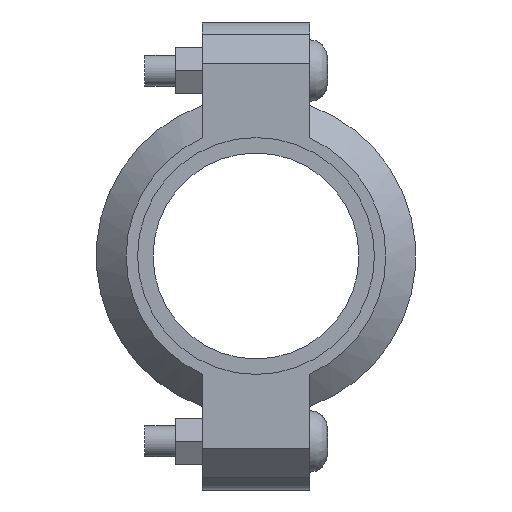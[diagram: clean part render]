
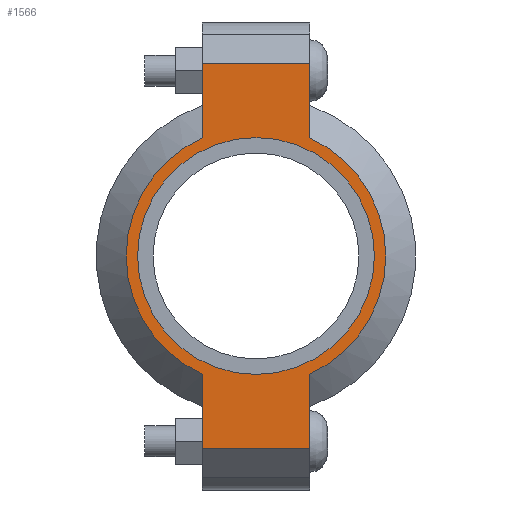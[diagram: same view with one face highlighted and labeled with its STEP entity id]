
A CAD part, left-side view. The second image highlights one B-rep face of the part: STEP entity #1566.
In plain terms, the highlighted planar face has unit normal (-1, 0, 0) as drawn and (0, 0, 1) by its records, which use the part's own axes.
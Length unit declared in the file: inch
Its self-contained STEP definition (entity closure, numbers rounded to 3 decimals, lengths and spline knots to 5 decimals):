
#190=LINE('',#2724,#283);
#198=LINE('',#2760,#291);
#205=LINE('',#2781,#298);
#214=LINE('',#2813,#307);
#215=LINE('',#2817,#308);
#216=LINE('',#2819,#309);
#283=VECTOR('',#2216,0.3937);
#291=VECTOR('',#2232,0.3937);
#298=VECTOR('',#2251,0.3937);
#307=VECTOR('',#2276,0.3937);
#308=VECTOR('',#2281,0.3937);
#309=VECTOR('',#2282,0.3937);
#365=FACE_BOUND('',#543,.T.);
#437=FACE_OUTER_BOUND('',#542,.T.);
#542=EDGE_LOOP('',(#1307,#1308,#1309,#1310,#1311,#1312,#1313,#1314));
#543=EDGE_LOOP('',(#1315));
#615=CIRCLE('',#1776,1.4375);
#641=CIRCLE('',#1835,1.575);
#642=CIRCLE('',#1836,1.575);
#707=VERTEX_POINT('',#2540);
#750=VERTEX_POINT('',#2721);
#751=VERTEX_POINT('',#2723);
#762=VERTEX_POINT('',#2755);
#763=VERTEX_POINT('',#2759);
#770=VERTEX_POINT('',#2778);
#771=VERTEX_POINT('',#2780);
#781=VERTEX_POINT('',#2816);
#782=VERTEX_POINT('',#2818);
#863=EDGE_CURVE('',#707,#707,#615,.T.);
#924=EDGE_CURVE('',#751,#750,#190,.T.);
#938=EDGE_CURVE('',#763,#762,#198,.T.);
#948=EDGE_CURVE('',#771,#770,#205,.T.);
#963=EDGE_CURVE('',#763,#750,#214,.T.);
#964=EDGE_CURVE('',#762,#771,#641,.T.);
#965=EDGE_CURVE('',#781,#770,#215,.T.);
#966=EDGE_CURVE('',#781,#782,#216,.T.);
#967=EDGE_CURVE('',#782,#751,#642,.T.);
#1307=ORIENTED_EDGE('',*,*,#963,.F.);
#1308=ORIENTED_EDGE('',*,*,#938,.T.);
#1309=ORIENTED_EDGE('',*,*,#964,.T.);
#1310=ORIENTED_EDGE('',*,*,#948,.T.);
#1311=ORIENTED_EDGE('',*,*,#965,.F.);
#1312=ORIENTED_EDGE('',*,*,#966,.T.);
#1313=ORIENTED_EDGE('',*,*,#967,.T.);
#1314=ORIENTED_EDGE('',*,*,#924,.T.);
#1315=ORIENTED_EDGE('',*,*,#863,.T.);
#1408=PLANE('',#1834);
#1566=ADVANCED_FACE('',(#437,#365),#1408,.T.);
#1776=AXIS2_PLACEMENT_3D('',#2542,#2092,#2093);
#1834=AXIS2_PLACEMENT_3D('',#2814,#2277,#2278);
#1835=AXIS2_PLACEMENT_3D('',#2815,#2279,#2280);
#1836=AXIS2_PLACEMENT_3D('',#2820,#2283,#2284);
#2092=DIRECTION('center_axis',(0.,0.,-1.));
#2093=DIRECTION('ref_axis',(-1.,0.,0.));
#2216=DIRECTION('',(-1.,0.,0.));
#2232=DIRECTION('',(1.,0.,0.));
#2251=DIRECTION('',(1.,0.,0.));
#2276=DIRECTION('',(0.,1.,0.));
#2277=DIRECTION('center_axis',(0.,0.,1.));
#2278=DIRECTION('ref_axis',(1.,0.,0.));
#2279=DIRECTION('center_axis',(0.,0.,1.));
#2280=DIRECTION('ref_axis',(-1.,0.,0.));
#2281=DIRECTION('',(0.,-1.,0.));
#2282=DIRECTION('',(-1.,0.,0.));
#2283=DIRECTION('center_axis',(0.,0.,1.));
#2284=DIRECTION('ref_axis',(-1.,0.,0.));
#2540=CARTESIAN_POINT('',(1.4375,0.,0.94));
#2542=CARTESIAN_POINT('Origin',(0.,0.,0.94));
#2721=CARTESIAN_POINT('',(-2.34,0.65,0.94));
#2723=CARTESIAN_POINT('',(-1.43462,0.65,0.94));
#2724=CARTESIAN_POINT('',(-2.84,0.65,0.94));
#2755=CARTESIAN_POINT('',(-1.43462,-0.65,0.94));
#2759=CARTESIAN_POINT('',(-2.34,-0.65,0.94));
#2760=CARTESIAN_POINT('',(2.84,-0.65,0.94));
#2778=CARTESIAN_POINT('',(2.34,-0.65,0.94));
#2780=CARTESIAN_POINT('',(1.43462,-0.65,0.94));
#2781=CARTESIAN_POINT('',(2.84,-0.65,0.94));
#2813=CARTESIAN_POINT('',(-2.34,0.325,0.94));
#2814=CARTESIAN_POINT('Origin',(0.,0.,
0.94));
#2815=CARTESIAN_POINT('Origin',(0.,0.,0.94));
#2816=CARTESIAN_POINT('',(2.34,0.65,0.94));
#2817=CARTESIAN_POINT('',(2.34,-0.325,0.94));
#2818=CARTESIAN_POINT('',(1.43462,0.65,0.94));
#2819=CARTESIAN_POINT('',(-2.84,0.65,0.94));
#2820=CARTESIAN_POINT('Origin',(0.,0.,0.94));
